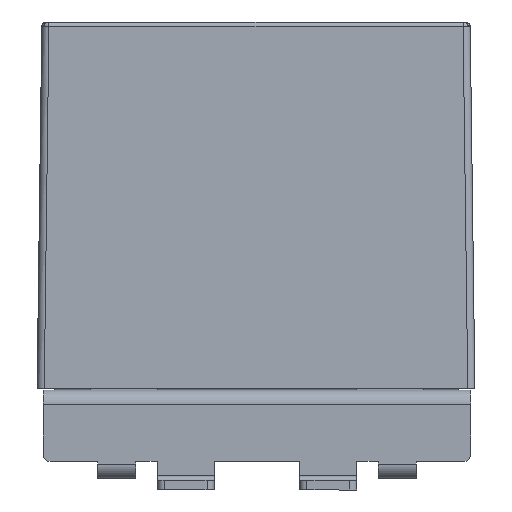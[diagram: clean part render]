
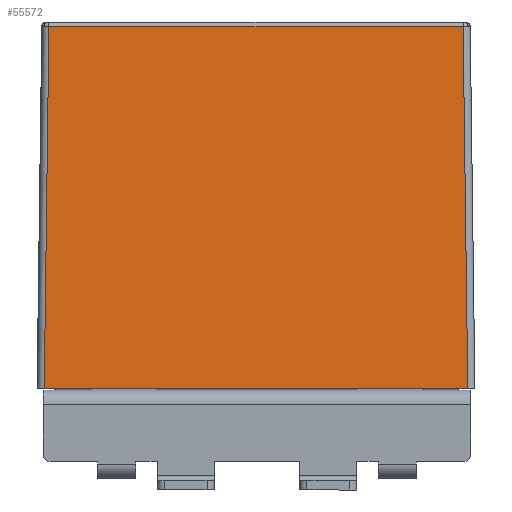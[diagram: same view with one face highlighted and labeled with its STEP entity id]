
A CAD part, front view. The second image highlights one B-rep face of the part: STEP entity #55572.
In plain terms, the highlighted planar face has unit normal (0, -1, 0.013) as drawn and (-1, 0.013, 0) by its records, which use the part's own axes.
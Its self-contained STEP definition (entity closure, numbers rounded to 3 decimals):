
#1471 = VERTEX_POINT ( 'NONE', #60481 ) ;
#5659 = EDGE_CURVE ( 'NONE', #83096, #1471, #56692, .T. ) ;
#9868 = EDGE_CURVE ( 'NONE', #1471, #58444, #42553, .T. ) ;
#11477 = ORIENTED_EDGE ( 'NONE', *, *, #78324, .T. ) ;
#12023 = EDGE_CURVE ( 'NONE', #83096, #60612, #82809, .T. ) ;
#19485 = ORIENTED_EDGE ( 'NONE', *, *, #5659, .T. ) ;
#19727 = FACE_OUTER_BOUND ( 'NONE', #42042, .T. ) ;
#23978 = LINE ( 'NONE', #28091, #28314 ) ;
#24973 = CARTESIAN_POINT ( 'NONE',  ( -58.063, 76.213, 43.563 ) ) ;
#27580 = ORIENTED_EDGE ( 'NONE', *, *, #9868, .T. ) ;
#28091 = CARTESIAN_POINT ( 'NONE',  ( -59.05, 0., 0. ) ) ;
#28131 = DIRECTION ( 'NONE',  ( -0.013, -1., -0.013 ) ) ;
#28314 = VECTOR ( 'NONE', #50671, 1000. ) ;
#29887 = DIRECTION ( 'NONE',  ( -0.013, -1., 0.013 ) ) ;
#32375 = ORIENTED_EDGE ( 'NONE', *, *, #12023, .F. ) ;
#35601 = CARTESIAN_POINT ( 'NONE',  ( -59.033, 1.342, 44.533 ) ) ;
#37479 = VECTOR ( 'NONE', #28131, 1000. ) ;
#39864 = DIRECTION ( 'NONE',  ( 0., 0., 1. ) ) ;
#41921 = CARTESIAN_POINT ( 'NONE',  ( -59.05, 0., -44.55 ) ) ;
#42042 = EDGE_LOOP ( 'NONE', ( #19485, #27580, #11477, #32375 ) ) ;
#42553 = LINE ( 'NONE', #61350, #37479 ) ;
#45988 = PLANE ( 'NONE',  #59909 ) ;
#50671 = DIRECTION ( 'NONE',  ( 0., 0., 1. ) ) ;
#54446 = VECTOR ( 'NONE', #83368, 1000. ) ;
#55572 = ADVANCED_FACE ( 'NONE', ( #19727 ), #45988, .T. ) ;
#56692 = LINE ( 'NONE', #69792, #54446 ) ;
#57821 = CARTESIAN_POINT ( 'NONE',  ( -59.05, 0., 44.55 ) ) ;
#58444 = VERTEX_POINT ( 'NONE', #41921 ) ;
#59909 = AXIS2_PLACEMENT_3D ( 'NONE', #86209, #60375, #39864 ) ;
#60375 = DIRECTION ( 'NONE',  ( -1., 0.013, 0. ) ) ;
#60481 = CARTESIAN_POINT ( 'NONE',  ( -58.063, 76.213, -43.563 ) ) ;
#60612 = VERTEX_POINT ( 'NONE', #57821 ) ;
#61350 = CARTESIAN_POINT ( 'NONE',  ( -58.063, 76.213, -43.563 ) ) ;
#65514 = VECTOR ( 'NONE', #29887, 1000. ) ;
#69792 = CARTESIAN_POINT ( 'NONE',  ( -58.063, 76.213, 0. ) ) ;
#78324 = EDGE_CURVE ( 'NONE', #58444, #60612, #23978, .T. ) ;
#82809 = LINE ( 'NONE', #35601, #65514 ) ;
#83096 = VERTEX_POINT ( 'NONE', #24973 ) ;
#83368 = DIRECTION ( 'NONE',  ( 0., 0., -1. ) ) ;
#86209 = CARTESIAN_POINT ( 'NONE',  ( -59.04, 0.765, 0. ) ) ;
